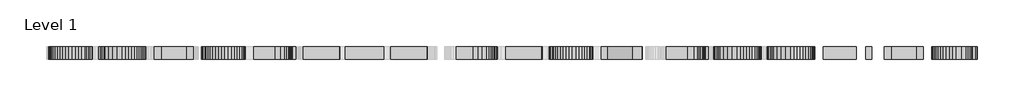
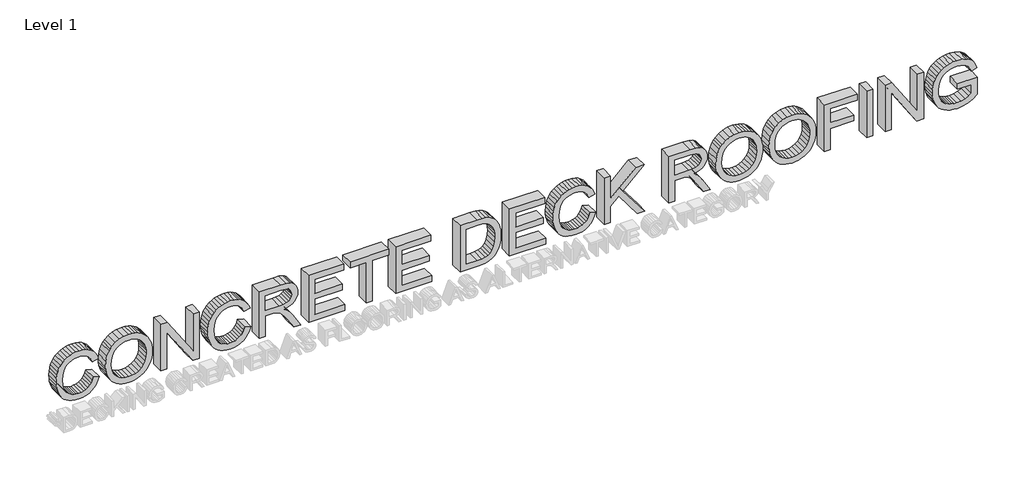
# One storey, part 2 of 2: 1 proxy.
"""IFC4 building model written with IfcOpenShell, lengths in millimetres."""

from ifc_helpers import new_model, si_unit, frame, origin, place, context, project, spatial, polyline, outline, extrude, element, save

model = new_model("IFC4")

# Units and contexts
model_context = context("Model", 3, world=origin())
ifc_project = project(units=[si_unit("LENGTHUNIT", "METRE", prefix="MILLI")], contexts=[model_context])

# Site, building, storey
site = spatial("IfcSite", under=ifc_project)
building = spatial("IfcBuilding", under=site)
storey = spatial("IfcBuildingStorey", under=building, Name="Level 1", Elevation=0.0)

# Proxy
placement = place(None, origin())
element("IfcBuildingElementProxy", 1, Name="24\" Arial", ObjectType="24\" Arial", at=placement, inside=storey, context=model_context, shape_type="SweptSolid", body=[
    extrude(outline(polyline([(-9479.2336375, -23338.8774651), (-9513.615224, -23349.1214194), (-9543.4907529, -23363.1478977), (-9568.860224, -23380.9569001), (-9589.7236375, -23402.5484266), (-9606.007724, -23427.3363232), (-9617.6392144, -23454.7344362), (-9624.6181086, -23484.7427655), (-9626.9444067, -23517.3613112), (-9625.2363178, -23544.7136309), (-9620.112051, -23571.0859747), (-9611.5716062, -23596.4783425), (-9599.6149836, -23620.8907343), (-9584.2055486, -23643.2378497), (-9565.3066663, -23662.4343881), (-9542.918337, -23678.4803497), (-9517.0405606, -23691.3757343), (-9488.2457529, -23701.2808184), (-9457.1063298, -23708.3558785), (-9387.7936375, -23714.0159266), (-9331.1931567, -23709.2351093), (-9276.2778683, -23694.8926574), (-9250.6153202, -23683.5771405), (-9227.7003683, -23668.7538593), (-9207.5330125, -23650.4228136), (-9190.1132529, -23628.5840035), (-9176.0730365, -23603.5534026), (-9166.0443106, -23575.6469843), (-9160.027075, -23544.8647487), (-9158.0213298, -23511.2066958), (-9159.8301639, -23481.9539554), (-9165.2566663, -23455.3022727), (-9174.300837, -23431.2516477), (-9186.962676, -23409.8020804), (-9203.5810534, -23390.843667), (-9224.4948394, -23374.2665035), (-9249.7040341, -23360.0705901), (-9279.2086375, -23348.2559266), (-9261.3309452, -23273.2282343), (-9221.2893106, -23287.483679), (-9186.010176, -23306.3642439), (-9155.4935413, -23329.869929), (-9129.7394067, -23358.0007343), (-9109.2881327, -23390.2254578), (-9094.6800798, -23426.0128977), (-9085.9152481, -23465.363054), (-9082.9936375, -23508.2759266), (-9085.2512457, -23546.7972247), (-9092.0240702, -23583.6699651), (-9103.3121111, -23618.8941477), (-9119.1153683, -23652.4697727), (-9139.2689861, -23683.3481742), (-9163.6081086, -23710.4806862), (-9192.1327361, -23733.8673088), (-9224.8428683, -23753.508042), (-9261.1386135, -23769.0548569), (-9300.4200798, -23780.1597247), (-9342.6872673, -23786.8226453), (-9387.940176, -23789.0436189), (-9430.1157769, -23787.0790876), (-9470.9175798, -23781.1854939), (-9510.3455846, -23771.3628376), (-9548.3997913, -23757.6111189), (-9583.5598635, -23740.0997727), (-9614.3054644, -23718.9982343), (-9640.6365942, -23694.3065035), (-9662.5532529, -23666.0245804), (-9679.7989981, -23633.7082703), (-9692.1173875, -23596.9133785), (-9699.5084211, -23555.639905), (-9701.972099, -23509.8878497), (-9698.7161976, -23465.2302535), (-9688.9484933, -23424.1628497), (-9672.6689861, -23386.6856381), (-9649.877676, -23352.7986189), (-9620.8859572, -23323.1703737), (-9586.005224, -23298.4694843), (-9545.2354764, -23278.6959506), (-9498.5767144, -23263.8497727), (-9479.2336375, -23338.8774651)])), frame((0.0, 8681.5965573, 0.0), z_axis=(0.0, 1.0, 0.0), x_axis=(0.0, 0.0, 1.0)), (0.0, 0.0, 1.0), 152.4),
    extrude(outline(polyline([(-9400.3959452, -23188.8220804), (-9439.2973274, -23186.6789554), (-9477.1637817, -23180.2495804), (-9513.9953082, -23169.5339554), (-9549.7919067, -23154.5320804), (-9583.2118346, -23135.3721766), (-9612.913349, -23112.1824651), (-9638.89645, -23084.9629458), (-9661.1611375, -23053.7136189), (-9679.0159332, -23019.3320324), (-9691.7693586, -22982.7157343), (-9699.4214139, -22943.8647247), (-9701.972099, -22902.7790035), (-9699.6641183, -22864.4637751), (-9692.740176, -22827.4765516), (-9681.2002721, -22791.8173328), (-9665.0444067, -22757.4861189), (-9644.400801, -22725.733066), (-9619.397676, -22697.8083304), (-9590.0350317, -22673.7119122), (-9556.3128683, -22653.4438112), (-9519.2111615, -22637.3841117), (-9479.7098875, -22625.9128977), (-9437.8090461, -22619.0301694), (-9393.5086375, -22616.7359266), (-9349.785224, -22618.9156862), (-9308.4430606, -22625.4549651), (-9269.4821471, -22636.3537631), (-9232.9024836, -22651.6120804), (-9199.4642385, -22671.0284266), (-9169.9275798, -22694.4013112), (-9144.2925077, -22721.7307343), (-9122.5590221, -22753.0166958), (-9105.2491663, -22787.2975372), (-9092.8849836, -22823.6115997), (-9085.466474, -22861.9588833), (-9082.9936375, -22902.3393881), (-9088.2598635, -22962.667441), (-9104.0585413, -23017.1889074), (-9130.3896711, -23065.9037872), (-9167.2532529, -23108.8120804), (-9189.3278983, -23127.5644242), (-9213.4220269, -23143.8164554), (-9267.6687336, -23168.8195804), (-9329.9933731, -23183.8214554), (-9400.3959452, -23188.8220804)]), holes=[polyline([(-9401.1286375, -23113.7943881), (-9340.3105966, -23109.8836429), (-9288.8618586, -23098.1514074), (-9246.7824236, -23078.5976814), (-9214.0722913, -23051.2224651), (-9189.5499957, -23018.4253256), (-9172.0340702, -22982.6058304), (-9161.5245149, -22943.7639795), (-9158.0213298, -22901.8997727), (-9159.8393226, -22872.1020925), (-9165.293301, -22843.8155901), (-9174.3832649, -22817.0402655), (-9187.1092144, -22791.7761189), (-9203.141438, -22768.7375251), (-9222.150224, -22748.6388593), (-9244.1355726, -22731.4801213), (-9269.0974836, -22717.2613112), (-9296.6741904, -22706.1060708), (-9326.503926, -22698.138042), (-9358.5866904, -22693.3572247), (-9392.9224836, -22691.7636189), (-9445.777075, -22695.4866117), (-9492.238926, -22706.6555901), (-9532.3080365, -22725.270554), (-9565.9844067, -22751.3315035), (-9592.6544067, -22783.162405), (-9611.7044067, -22819.0872247), (-9623.1344067, -22859.1059626), (-9626.9444067, -22903.2186189), (-9623.1710413, -22946.5894242), (-9611.8509452, -22986.1410708), (-9592.9841183, -23021.8735588), (-9566.5705606, -23053.7868881), (-9533.5902481, -23080.0401694), (-9495.0231567, -23098.7925131), (-9450.8692865, -23110.0439194), (-9401.1286375, -23113.7943881)])]), frame((0.0, 8681.5965573, 0.0), z_axis=(0.0, 1.0, 0.0), x_axis=(0.0, 0.0, 1.0)), (0.0, 0.0, 1.0), 152.4),
    extrude(outline(polyline([(-9692.5936375, -22513.5728497), (-9692.5936375, -22438.5451574), (-9216.9297913, -22438.5451574), (-9692.5936375, -22124.9528497), (-9692.5936375, -22044.6497727), (-9092.372099, -22044.6497727), (-9092.372099, -22119.6774651), (-9567.8894067, -22119.6774651), (-9092.372099, -22433.2697727), (-9092.372099, -22513.5728497), (-9692.5936375, -22513.5728497)])), frame((0.0, 8681.5965573, 0.0), z_axis=(0.0, 1.0, 0.0), x_axis=(0.0, 0.0, 1.0)), (0.0, 0.0, 1.0), 152.4),
    extrude(outline(polyline([(-9479.2336375, -21491.320542), (-9513.615224, -21501.5644963), (-9543.4907529, -21515.5909747), (-9568.860224, -21533.3999771), (-9589.7236375, -21554.9915035), (-9606.007724, -21579.7794001), (-9617.6392144, -21607.1775131), (-9624.6181086, -21637.1858425), (-9626.9444067, -21669.8043881), (-9625.2363178, -21697.1567078), (-9620.112051, -21723.5290516), (-9611.5716062, -21748.9214194), (-9599.6149836, -21773.3338112), (-9584.2055486, -21795.6809266), (-9565.3066663, -21814.8774651), (-9542.918337, -21830.9234266), (-9517.0405606, -21843.8188112), (-9488.2457529, -21853.7238953), (-9457.1063298, -21860.7989554), (-9387.7936375, -21866.4590035), (-9331.1931567, -21861.6781862), (-9276.2778683, -21847.3357343), (-9250.6153202, -21836.0202175), (-9227.7003683, -21821.1969362), (-9207.5330125, -21802.8658905), (-9190.1132529, -21781.0270804), (-9176.0730365, -21755.9964795), (-9166.0443106, -21728.0900612), (-9160.027075, -21697.3078256), (-9158.0213298, -21663.6497727), (-9159.8301639, -21634.3970324), (-9165.2566663, -21607.7453497), (-9174.300837, -21583.6947247), (-9186.962676, -21562.2451574), (-9203.5810534, -21543.2867439), (-9224.4948394, -21526.7095804), (-9249.7040341, -21512.513667), (-9279.2086375, -21500.6990035), (-9261.3309452, -21425.6713112), (-9221.2893106, -21439.9267559), (-9186.010176, -21458.8073208), (-9155.4935413, -21482.3130059), (-9129.7394067, -21510.4438112), (-9109.2881327, -21542.6685348), (-9094.6800798, -21578.4559747), (-9085.9152481, -21617.8061309), (-9082.9936375, -21660.7190035), (-9085.2512457, -21699.2403016), (-9092.0240702, -21736.113042), (-9103.3121111, -21771.3372247), (-9119.1153683, -21804.9128497), (-9139.2689861, -21835.7912511), (-9163.6081086, -21862.9237631), (-9192.1327361, -21886.3103857), (-9224.8428683, -21905.9511189), (-9261.1386135, -21921.4979338), (-9300.4200798, -21932.6028016), (-9342.6872673, -21939.2657223), (-9387.940176, -21941.4866958), (-9430.1157769, -21939.5221646), (-9470.9175798, -21933.6285708), (-9510.3455846, -21923.8059146), (-9548.3997913, -21910.0541958), (-9583.5598635, -21892.5428497), (-9614.3054644, -21871.4413112), (-9640.6365942, -21846.7495804), (-9662.5532529, -21818.4676574), (-9679.7989981, -21786.1513473), (-9692.1173875, -21749.3564554), (-9699.5084211, -21708.0829819), (-9701.972099, -21662.3309266), (-9698.7161976, -21617.6733304), (-9688.9484933, -21576.6059266), (-9672.6689861, -21539.1287151), (-9649.877676, -21505.2416958), (-9620.8859572, -21475.6134506), (-9586.005224, -21450.9125612), (-9545.2354764, -21431.1390276), (-9498.5767144, -21416.2928497), (-9479.2336375, -21491.320542)])), frame((0.0, 8681.5965573, 0.0), z_axis=(0.0, 1.0, 0.0), x_axis=(0.0, 0.0, 1.0)), (0.0, 0.0, 1.0), 152.4),
    extrude(outline(polyline([(-9692.5936375, -21313.1297727), (-9692.5936375, -21238.1020804), (-9429.9967144, -21238.1020804), (-9429.9967144, -21147.5413112), (-9432.6344067, -21104.0193881), (-9446.9219067, -21068.3372727), (-9461.8138779, -21049.6719362), (-9485.8278683, -21028.6986189), (-9568.1824836, -20972.2813112), (-9692.5936375, -20894.1763112), (-9692.5936375, -20806.9859266), (-9529.9359452, -20907.0716958), (-9489.1616183, -20937.1487151), (-9452.710176, -20967.8851574), (-9436.7741183, -20985.7994843), (-9420.6182529, -21010.5278497), (-9412.6777, -20970.8021886), (-9400.7256567, -20936.6175131), (-9384.7621231, -20907.9738232), (-9364.787099, -20884.8711189), (-9341.5424356, -20867.0804338), (-9315.7699836, -20854.3728016), (-9287.4697433, -20846.7482223), (-9256.6417144, -20844.2066958), (-9232.3392264, -20845.7407703), (-9209.108301, -20850.3429939), (-9186.948938, -20858.0133665), (-9165.8611375, -20868.7518881), (-9146.8660894, -20882.0594122), (-9130.9849836, -20897.436792), (-9118.2178202, -20914.8840276), (-9108.564599, -20934.4011189), (-9096.420224, -20984.9752054), (-9092.372099, -21054.4893881), (-9092.372099, -21313.1297727), (-9692.5936375, -21313.1297727)]), holes=[polyline([(-9354.9690221, -21238.1020804), (-9167.3997913, -21238.1020804), (-9167.3997913, -21051.265542), (-9169.0208731, -21019.2789434), (-9173.8841183, -20991.8991477), (-9181.9895269, -20969.126155), (-9193.337099, -20950.9599651), (-9207.1941423, -20937.0800251), (-9222.8279644, -20927.1657824), (-9240.2385654, -20921.2172367), (-9259.4259452, -20919.2343881), (-9285.9310894, -20923.392417), (-9310.3480606, -20935.8665035), (-9330.5337336, -20956.3452535), (-9344.3449836, -20984.5172727), (-9352.3130125, -21021.9395324), (-9354.9690221, -21070.1690035), (-9354.9690221, -21238.1020804)])]), frame((0.0, 8681.5965573, 0.0), z_axis=(0.0, 1.0, 0.0), x_axis=(0.0, 0.0, 1.0)), (0.0, 0.0, 1.0), 152.4),
    extrude(outline(polyline([(-9692.5936375, -20712.9082343), (-9692.5936375, -20272.120542), (-9617.5659452, -20272.120542), (-9617.5659452, -20637.880542), (-9420.6182529, -20637.880542), (-9420.6182529, -20300.2559266), (-9345.5905606, -20300.2559266), (-9345.5905606, -20637.880542), (-9167.3997913, -20637.880542), (-9167.3997913, -20281.4990035), (-9092.372099, -20281.4990035), (-9092.372099, -20712.9082343), (-9692.5936375, -20712.9082343)])), frame((0.0, 8681.5965573, 0.0), z_axis=(0.0, 1.0, 0.0), x_axis=(0.0, 0.0, 1.0)), (0.0, 0.0, 1.0), 152.4),
    extrude(outline(polyline([(-9692.5936375, -20009.5236189), (-9692.5936375, -19934.4959266), (-9167.3997913, -19934.4959266), (-9167.3997913, -19737.5482343), (-9092.372099, -19737.5482343), (-9092.372099, -20206.4713112), (-9167.3997913, -20206.4713112), (-9167.3997913, -20009.5236189), (-9692.5936375, -20009.5236189)])), frame((0.0, 8681.5965573, 0.0), z_axis=(0.0, 1.0, 0.0), x_axis=(0.0, 0.0, 1.0)), (0.0, 0.0, 1.0), 152.4),
    extrude(outline(polyline([(-9692.5936375, -19653.1420804), (-9692.5936375, -19212.3543881), (-9617.5659452, -19212.3543881), (-9617.5659452, -19578.1143881), (-9420.6182529, -19578.1143881), (-9420.6182529, -19240.4897727), (-9345.5905606, -19240.4897727), (-9345.5905606, -19578.1143881), (-9167.3997913, -19578.1143881), (-9167.3997913, -19221.7328497), (-9092.372099, -19221.7328497), (-9092.372099, -19653.1420804), (-9692.5936375, -19653.1420804)])), frame((0.0, 8681.5965573, 0.0), z_axis=(0.0, 1.0, 0.0), x_axis=(0.0, 0.0, 1.0)), (0.0, 0.0, 1.0), 152.4),
    extrude(outline(polyline([(-9692.5936375, -18865.3513112), (-9692.5936375, -18648.3278497), (-9690.0292144, -18596.9478016), (-9682.3359452, -18551.8322727), (-9669.6786856, -18512.9079939), (-9652.2222913, -18480.1016958), (-9628.684551, -18451.5266958), (-9597.7832529, -18425.2963112), (-9558.6391663, -18402.5095804), (-9510.3730606, -18384.265542), (-9453.6809933, -18372.2860227), (-9389.2590221, -18368.2928497), (-9313.4253683, -18374.1910227), (-9278.8606086, -18381.5637391), (-9246.5305606, -18391.885542), (-9216.7099836, -18405.1747487), (-9189.6736375, -18421.4496766), (-9165.4215221, -18440.7103256), (-9143.9536375, -18462.9566958), (-9117.6866183, -18503.328042), (-9101.0178683, -18551.1728497), (-9094.5335413, -18596.4165997), (-9092.372099, -18658.2924651), (-9092.372099, -18865.3513112), (-9692.5936375, -18865.3513112)]), holes=[polyline([(-9617.5659452, -18790.3236189), (-9167.3997913, -18790.3236189), (-9167.3997913, -18659.6113112), (-9170.4038298, -18596.3799651), (-9179.4159452, -18553.2243881), (-9189.8934452, -18531.1566117), (-9204.4740221, -18510.8198208), (-9223.157676, -18492.2140155), (-9245.9444067, -18475.3391958), (-9273.4570029, -18461.3310348), (-9306.3182529, -18451.3252054), (-9344.5281567, -18445.3217078), (-9388.0867144, -18443.320542), (-9449.797724, -18447.4053016), (-9501.5807529, -18459.6595804), (-9543.618974, -18479.2407824), (-9576.0955606, -18505.3063112), (-9593.6435413, -18529.5584266), (-9606.722099, -18560.9909266), (-9614.8549836, -18602.6444843), (-9617.5659452, -18657.5597727), (-9617.5659452, -18790.3236189)])]), frame((0.0, 8681.5965573, 0.0), z_axis=(0.0, 1.0, 0.0), x_axis=(0.0, 0.0, 1.0)), (0.0, 0.0, 1.0), 152.4),
    extrude(outline(polyline([(-9692.5936375, -18265.1297727), (-9692.5936375, -17824.3420804), (-9617.5659452, -17824.3420804), (-9617.5659452, -18190.1020804), (-9420.6182529, -18190.1020804), (-9420.6182529, -17852.4774651), (-9345.5905606, -17852.4774651), (-9345.5905606, -18190.1020804), (-9167.3997913, -18190.1020804), (-9167.3997913, -17833.720542), (-9092.372099, -17833.720542), (-9092.372099, -18265.1297727), (-9692.5936375, -18265.1297727)])), frame((0.0, 8681.5965573, 0.0), z_axis=(0.0, 1.0, 0.0), x_axis=(0.0, 0.0, 1.0)), (0.0, 0.0, 1.0), 152.4),
    extrude(outline(polyline([(-9479.2336375, -17289.7697727), (-9513.615224, -17300.0137271), (-9543.4907529, -17314.0402054), (-9568.860224, -17331.8492078), (-9589.7236375, -17353.4407343), (-9606.007724, -17378.2286309), (-9617.6392144, -17405.6267439), (-9624.6181086, -17435.6350732), (-9626.9444067, -17468.2536189), (-9625.2363178, -17495.6059386), (-9620.112051, -17521.9782824), (-9611.5716062, -17547.3706501), (-9599.6149836, -17571.783042), (-9584.2055486, -17594.1301574), (-9565.3066663, -17613.3266958), (-9542.918337, -17629.3726574), (-9517.0405606, -17642.268042), (-9488.2457529, -17652.1731261), (-9457.1063298, -17659.2481862), (-9387.7936375, -17664.9082343), (-9331.1931567, -17660.127417), (-9276.2778683, -17645.7849651), (-9250.6153202, -17634.4694482), (-9227.7003683, -17619.646167), (-9207.5330125, -17601.3151213), (-9190.1132529, -17579.4763112), (-9176.0730365, -17554.4457102), (-9166.0443106, -17526.539292), (-9160.027075, -17495.7570564), (-9158.0213298, -17462.0990035), (-9159.8301639, -17432.8462631), (-9165.2566663, -17406.1945804), (-9174.300837, -17382.1439554), (-9186.962676, -17360.6943881), (-9203.5810534, -17341.7359747), (-9224.4948394, -17325.1588112), (-9249.7040341, -17310.9628977), (-9279.2086375, -17299.1482343), (-9261.3309452, -17224.120542), (-9221.2893106, -17238.3759867), (-9186.010176, -17257.2565516), (-9155.4935413, -17280.7622367), (-9129.7394067, -17308.893042), (-9109.2881327, -17341.1177655), (-9094.6800798, -17376.9052054), (-9085.9152481, -17416.2553617), (-9082.9936375, -17459.1682343), (-9085.2512457, -17497.6895324), (-9092.0240702, -17534.5622727), (-9103.3121111, -17569.7864554), (-9119.1153683, -17603.3620804), (-9139.2689861, -17634.2404819), (-9163.6081086, -17661.3729939), (-9192.1327361, -17684.7596165), (-9224.8428683, -17704.4003497), (-9261.1386135, -17719.9471646), (-9300.4200798, -17731.0520324), (-9342.6872673, -17737.714953), (-9387.940176, -17739.9359266), (-9430.1157769, -17737.9713953), (-9470.9175798, -17732.0778016), (-9510.3455846, -17722.2551453), (-9548.3997913, -17708.5034266), (-9583.5598635, -17690.9920804), (-9614.3054644, -17669.890542), (-9640.6365942, -17645.1988112), (-9662.5532529, -17616.9168881), (-9679.7989981, -17584.600578), (-9692.1173875, -17547.8056862), (-9699.5084211, -17506.5322126), (-9701.972099, -17460.7801574), (-9698.7161976, -17416.1225612), (-9688.9484933, -17375.0551574), (-9672.6689861, -17337.5779458), (-9649.877676, -17303.6909266), (-9620.8859572, -17274.0626814), (-9586.005224, -17249.361792), (-9545.2354764, -17229.5882583), (-9498.5767144, -17214.7420804), (-9479.2336375, -17289.7697727)])), frame((0.0, 8681.5965573, 0.0), z_axis=(0.0, 1.0, 0.0), x_axis=(0.0, 0.0, 1.0)), (0.0, 0.0, 1.0), 152.4),
    extrude(outline(polyline([(-9692.5936375, -17111.5790035), (-9692.5936375, -17036.5513112), (-9486.2674836, -17036.5513112), (-9389.845176, -16935.4397727), (-9692.5936375, -16706.2536189), (-9692.5936375, -16614.520542), (-9339.1428683, -16882.2463112), (-9092.372099, -16623.8990035), (-9092.372099, -16728.820542), (-9386.1817144, -17036.5513112), (-9092.372099, -17036.5513112), (-9092.372099, -17111.5790035), (-9692.5936375, -17111.5790035)])), frame((0.0, 8681.5965573, 0.0), z_axis=(0.0, 1.0, 0.0), x_axis=(0.0, 0.0, 1.0)), (0.0, 0.0, 1.0), 152.4),
    extrude(outline(polyline([(-9692.5936375, -16323.7882343), (-9692.5936375, -16248.760542), (-9429.9967144, -16248.760542), (-9429.9967144, -16158.1997727), (-9432.6344067, -16114.6778497), (-9446.9219067, -16078.9957343), (-9461.8138779, -16060.3303977), (-9485.8278683, -16039.3570804), (-9568.1824836, -15982.9397727), (-9692.5936375, -15904.8347727), (-9692.5936375, -15817.6443881), (-9529.9359452, -15917.7301574), (-9489.1616183, -15947.8071766), (-9452.710176, -15978.5436189), (-9436.7741183, -15996.4579458), (-9420.6182529, -16021.1863112), (-9412.6777, -15981.4606501), (-9400.7256567, -15947.2759747), (-9384.7621231, -15918.6322848), (-9364.787099, -15895.5295804), (-9341.5424356, -15877.7388953), (-9315.7699836, -15865.0312631), (-9287.4697433, -15857.4066838), (-9256.6417144, -15854.8651574), (-9232.3392264, -15856.3992319), (-9209.108301, -15861.0014554), (-9186.948938, -15868.671828), (-9165.8611375, -15879.4103497), (-9146.8660894, -15892.7178737), (-9130.9849836, -15908.0952535), (-9118.2178202, -15925.5424891), (-9108.564599, -15945.0595804), (-9096.420224, -15995.633667), (-9092.372099, -16065.1478497), (-9092.372099, -16323.7882343), (-9692.5936375, -16323.7882343)]), holes=[polyline([(-9354.9690221, -16248.760542), (-9167.3997913, -16248.760542), (-9167.3997913, -16061.9240035), (-9169.0208731, -16029.937405), (-9173.8841183, -16002.5576093), (-9181.9895269, -15979.7846165), (-9193.337099, -15961.6184266), (-9207.1941423, -15947.7384867), (-9222.8279644, -15937.8242439), (-9240.2385654, -15931.8756982), (-9259.4259452, -15929.8928497), (-9285.9310894, -15934.0508785), (-9310.3480606, -15946.5249651), (-9330.5337336, -15967.0037151), (-9344.3449836, -15995.1757343), (-9352.3130125, -16032.5979939), (-9354.9690221, -16080.8274651), (-9354.9690221, -16248.760542)])]), frame((0.0, 8681.5965573, 0.0), z_axis=(0.0, 1.0, 0.0), x_axis=(0.0, 0.0, 1.0)), (0.0, 0.0, 1.0), 152.4),
    extrude(outline(polyline([(-9400.3959452, -15751.7020804), (-9439.2973274, -15749.5589554), (-9477.1637817, -15743.1295804), (-9513.9953082, -15732.4139554), (-9549.7919067, -15717.4120804), (-9583.2118346, -15698.2521766), (-9612.913349, -15675.0624651), (-9638.89645, -15647.8429458), (-9661.1611375, -15616.5936189), (-9679.0159332, -15582.2120324), (-9691.7693586, -15545.5957343), (-9699.4214139, -15506.7447247), (-9701.972099, -15465.6590035), (-9699.6641183, -15427.3437751), (-9692.740176, -15390.3565516), (-9681.2002721, -15354.6973328), (-9665.0444067, -15320.3661189), (-9644.400801, -15288.613066), (-9619.397676, -15260.6883304), (-9590.0350317, -15236.5919122), (-9556.3128683, -15216.3238112), (-9519.2111615, -15200.2641117), (-9479.7098875, -15188.7928977), (-9437.8090461, -15181.9101694), (-9393.5086375, -15179.6159266), (-9349.785224, -15181.7956862), (-9308.4430606, -15188.3349651), (-9269.4821471, -15199.2337631), (-9232.9024836, -15214.4920804), (-9199.4642385, -15233.9084266), (-9169.9275798, -15257.2813112), (-9144.2925077, -15284.6107343), (-9122.5590221, -15315.8966958), (-9105.2491663, -15350.1775372), (-9092.8849836, -15386.4915997), (-9085.466474, -15424.8388833), (-9082.9936375, -15465.2193881), (-9088.2598635, -15525.547441), (-9104.0585413, -15580.0689074), (-9130.3896711, -15628.7837872), (-9167.2532529, -15671.6920804), (-9189.3278983, -15690.4444242), (-9213.4220269, -15706.6964554), (-9267.6687336, -15731.6995804), (-9329.9933731, -15746.7014554), (-9400.3959452, -15751.7020804)]), holes=[polyline([(-9401.1286375, -15676.6743881), (-9340.3105966, -15672.7636429), (-9288.8618586, -15661.0314074), (-9246.7824236, -15641.4776814), (-9214.0722913, -15614.1024651), (-9189.5499957, -15581.3053256), (-9172.0340702, -15545.4858304), (-9161.5245149, -15506.6439795), (-9158.0213298, -15464.7797727), (-9159.8393226, -15434.9820925), (-9165.293301, -15406.6955901), (-9174.3832649, -15379.9202655), (-9187.1092144, -15354.6561189), (-9203.141438, -15331.6175251), (-9222.150224, -15311.5188593), (-9244.1355726, -15294.3601213), (-9269.0974836, -15280.1413112), (-9296.6741904, -15268.9860708), (-9326.503926, -15261.018042), (-9358.5866904, -15256.2372247), (-9392.9224836, -15254.6436189), (-9445.777075, -15258.3666117), (-9492.238926, -15269.5355901), (-9532.3080365, -15288.150554), (-9565.9844067, -15314.2115035), (-9592.6544067, -15346.042405), (-9611.7044067, -15381.9672247), (-9623.1344067, -15421.9859626), (-9626.9444067, -15466.0986189), (-9623.1710413, -15509.4694242), (-9611.8509452, -15549.0210708), (-9592.9841183, -15584.7535588), (-9566.5705606, -15616.6668881), (-9533.5902481, -15642.9201694), (-9495.0231567, -15661.6725131), (-9450.8692865, -15672.9239194), (-9401.1286375, -15676.6743881)])]), frame((0.0, 8681.5965573, 0.0), z_axis=(0.0, 1.0, 0.0), x_axis=(0.0, 0.0, 1.0)), (0.0, 0.0, 1.0), 152.4),
    extrude(outline(polyline([(-9400.3959452, -15104.5882343), (-9439.2973274, -15102.4451093), (-9477.1637817, -15096.0157343), (-9513.9953082, -15085.3001093), (-9549.7919067, -15070.2982343), (-9583.2118346, -15051.1383304), (-9612.913349, -15027.9486189), (-9638.89645, -15000.7290997), (-9661.1611375, -14969.4797727), (-9679.0159332, -14935.0981862), (-9691.7693586, -14898.4818881), (-9699.4214139, -14859.6308785), (-9701.972099, -14818.5451574), (-9699.6641183, -14780.229929), (-9692.740176, -14743.2427054), (-9681.2002721, -14707.5834867), (-9665.0444067, -14673.2522727), (-9644.400801, -14641.4992199), (-9619.397676, -14613.5744843), (-9590.0350317, -14589.478066), (-9556.3128683, -14569.2099651), (-9519.2111615, -14553.1502655), (-9479.7098875, -14541.6790516), (-9437.8090461, -14534.7963232), (-9393.5086375, -14532.5020804), (-9349.785224, -14534.6818401), (-9308.4430606, -14541.2211189), (-9269.4821471, -14552.119917), (-9232.9024836, -14567.3782343), (-9199.4642385, -14586.7945804), (-9169.9275798, -14610.1674651), (-9144.2925077, -14637.4968881), (-9122.5590221, -14668.7828497), (-9105.2491663, -14703.063691), (-9092.8849836, -14739.3777535), (-9085.466474, -14777.7250372), (-9082.9936375, -14818.105542), (-9088.2598635, -14878.4335949), (-9104.0585413, -14932.9550612), (-9130.3896711, -14981.669941), (-9167.2532529, -15024.5782343), (-9189.3278983, -15043.330578), (-9213.4220269, -15059.5826093), (-9267.6687336, -15084.5857343), (-9329.9933731, -15099.5876093), (-9400.3959452, -15104.5882343)]), holes=[polyline([(-9401.1286375, -15029.560542), (-9340.3105966, -15025.6497968), (-9288.8618586, -15013.9175612), (-9246.7824236, -14994.3638352), (-9214.0722913, -14966.9886189), (-9189.5499957, -14934.1914795), (-9172.0340702, -14898.3719843), (-9161.5245149, -14859.5301333), (-9158.0213298, -14817.6659266), (-9159.8393226, -14787.8682463), (-9165.293301, -14759.5817439), (-9174.3832649, -14732.8064194), (-9187.1092144, -14707.5422727), (-9203.141438, -14684.503679), (-9222.150224, -14664.4050131), (-9244.1355726, -14647.2462751), (-9269.0974836, -14633.0274651), (-9296.6741904, -14621.8722247), (-9326.503926, -14613.9041958), (-9358.5866904, -14609.1233785), (-9392.9224836, -14607.5297727), (-9445.777075, -14611.2527655), (-9492.238926, -14622.4217439), (-9532.3080365, -14641.0367078), (-9565.9844067, -14667.0976574), (-9592.6544067, -14698.9285588), (-9611.7044067, -14734.8533785), (-9623.1344067, -14774.8721165), (-9626.9444067, -14818.9847727), (-9623.1710413, -14862.355578), (-9611.8509452, -14901.9072247), (-9592.9841183, -14937.6397126), (-9566.5705606, -14969.553042), (-9533.5902481, -14995.8063232), (-9495.0231567, -15014.558667), (-9450.8692865, -15025.8100732), (-9401.1286375, -15029.560542)])]), frame((0.0, 8681.5965573, 0.0), z_axis=(0.0, 1.0, 0.0), x_axis=(0.0, 0.0, 1.0)), (0.0, 0.0, 1.0), 152.4),
    extrude(outline(polyline([(-9692.5936375, -14429.3390035), (-9692.5936375, -14354.3113112), (-9420.6182529, -14354.3113112), (-9420.6182529, -14072.9574651), (-9345.5905606, -14072.9574651), (-9345.5905606, -14354.3113112), (-9167.3997913, -14354.3113112), (-9167.3997913, -14026.0651574), (-9092.372099, -14026.0651574), (-9092.372099, -14429.3390035), (-9692.5936375, -14429.3390035)])), frame((0.0, 8681.5965573, 0.0), z_axis=(0.0, 1.0, 0.0), x_axis=(0.0, 0.0, 1.0)), (0.0, 0.0, 1.0), 152.4),
    extrude(outline(polyline([(-13838.4959266, 8681.5965573), (-13913.5236189, 8681.5965573), (-13913.5236189, 8833.9965573), (-13838.4959266, 8833.9965573), (-13838.4959266, 8681.5965573)])), frame((0.0, 0.0, -9692.5936375), z_axis=(0.0, 0.0, 1.0), x_axis=(1.0, 0.0, 0.0)), (0.0, 0.0, 1.0), 600.2215385),
    extrude(outline(polyline([(-9692.5936375, -13688.440542), (-9692.5936375, -13613.4128497), (-9216.9297913, -13613.4128497), (-9692.5936375, -13299.820542), (-9692.5936375, -13219.5174651), (-9092.372099, -13219.5174651), (-9092.372099, -13294.5451574), (-9567.8894067, -13294.5451574), (-9092.372099, -13608.1374651), (-9092.372099, -13688.440542), (-9692.5936375, -13688.440542)])), frame((0.0, 8681.5965573, 0.0), z_axis=(0.0, 1.0, 0.0), x_axis=(0.0, 0.0, 1.0)), (0.0, 0.0, 1.0), 152.4),
    extrude(outline(polyline([(-9458.132099, -12806.8651574), (-9458.132099, -12638.0528497), (-9566.5705606, -12638.0528497), (-9587.7636856, -12670.0165516), (-9607.674599, -12714.033042), (-9622.1269548, -12764.7170324), (-9626.9444067, -12816.6832343), (-9625.3462216, -12846.5267078), (-9620.5516663, -12875.5367439), (-9612.5607409, -12903.7133425), (-9601.3734452, -12931.0565035), (-9586.8936135, -12956.3801814), (-9569.0250798, -12978.4983304), (-9547.7678442, -12997.4109506), (-9523.1219067, -13013.118042), (-9495.1925918, -13025.459328), (-9464.085224, -13034.2745324), (-9429.7998034, -13039.563655), (-9392.3363298, -13041.3266958), (-9331.1565221, -13035.4651574), (-9274.5194067, -13017.880542), (-9244.3141663, -13001.3400131), (-9216.7099836, -12979.2676574), (-9192.9341183, -12950.5094843), (-9174.2138298, -12913.9115035), (-9162.0694548, -12869.6385708), (-9158.0213298, -12817.855542), (-9161.7763779, -12773.6192439), (-9173.0415221, -12733.5226574), (-9190.5528683, -12699.8920804), (-9213.0465221, -12675.0538112), (-9242.8854163, -12656.2785708), (-9282.4324836, -12640.8370804), (-9262.9428683, -12571.6709266), (-9207.4963779, -12590.7758785), (-9163.6630606, -12617.0245804), (-9145.6937817, -12633.3498809), (-9129.812676, -12652.5052054), (-9116.0197433, -12674.490554), (-9104.3149836, -12699.3059266), (-9088.323974, -12754.8806381), (-9082.9936375, -12816.6832343), (-9085.2924596, -12860.0769362), (-9092.188926, -12900.8695804), (-9103.6830365, -12939.061167), (-9119.7747913, -12974.6516958), (-9140.5969909, -13006.94053), (-9166.2824356, -13035.2270324), (-9196.8311255, -13059.511203), (-9232.2430606, -13079.793042), (-9270.8238899, -13095.7886309), (-9310.8792625, -13107.2140516), (-9352.4091784, -13114.069304), (-9395.4136375, -13116.3543881), (-9438.4135173, -13114.0601453), (-9479.3435413, -13107.177417), (-9518.2037096, -13095.706203), (-9554.9940221, -13079.6465035), (-9588.638337, -13059.0853256), (-9618.0605125, -13034.1096766), (-9643.2605486, -13004.7195564), (-9664.2384452, -12970.9149651), (-9680.7469187, -12933.8911069), (-9692.5386856, -12894.8431862), (-9699.6137457, -12853.771203), (-9701.972099, -12810.6751574), (-9696.0372913, -12746.2531862), (-9678.2328683, -12683.4065035), (-9648.6687336, -12622.2816477), (-9607.4547913, -12563.0251574), (-9383.1044067, -12563.0251574), (-9383.1044067, -12806.8651574), (-9458.132099, -12806.8651574)])), frame((0.0, 8681.5965573, 0.0), z_axis=(0.0, 1.0, 0.0), x_axis=(0.0, 0.0, 1.0)), (0.0, 0.0, 1.0), 152.4),
])

save(model, "model.ifc")
